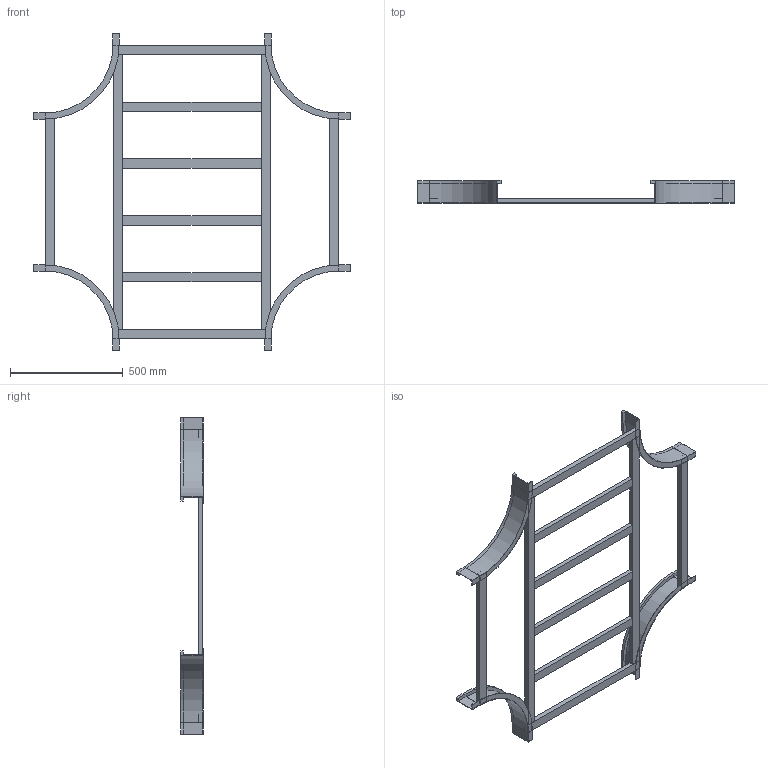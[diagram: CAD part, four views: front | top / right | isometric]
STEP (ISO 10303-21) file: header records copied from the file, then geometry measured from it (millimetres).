
FILE_DESCRIPTION (( 'STEP AP214' ), '1' );
FILE_NAME ('B2_17B3D700.step', '2025-02-21T15:55:48', ( '' ), ( '' ), 'SwSTEP 2.0', 'SolidWorks 2023', '' );
FILE_SCHEMA (( 'AUTOMOTIVE_DESIGN' ));
Length unit declared in the file: millimetre
Products named in the file (5): B2_17B3D700; TRAVERSINO_700; TRAVERSINO_INTERMEDIO_R300+700; B2_LONGH.INTERNO 90°_H100_R300; B2_TRAVERSINO_LONG._R300+700
Assembly tree (14 placements, depth 2):
  B2_17B3D700
    B2_LONGH.INTERNO 90°_H100_R300  x4
    TRAVERSINO_700  x4
    B2_TRAVERSINO_LONG._R300+700  x2
    TRAVERSINO_INTERMEDIO_R300+700  x4
Bounding box: 1400 x 100 x 1400 mm (x, y, z)
Volume: 7250246 mm3; surface area: 1612123.5 mm2
Topology: 14 solids, 14 shells, 164 faces, 344 edges, 208 vertices
Faces by surface type: plane 148, cylinder 16
Entity records: 1370 total; most frequent: DIRECTION 222, CARTESIAN_POINT 209, ORIENTED_EDGE 184, EDGE_CURVE 92, VECTOR 84, LINE 84, AXIS2_PLACEMENT_3D 69, VERTEX_POINT 56
